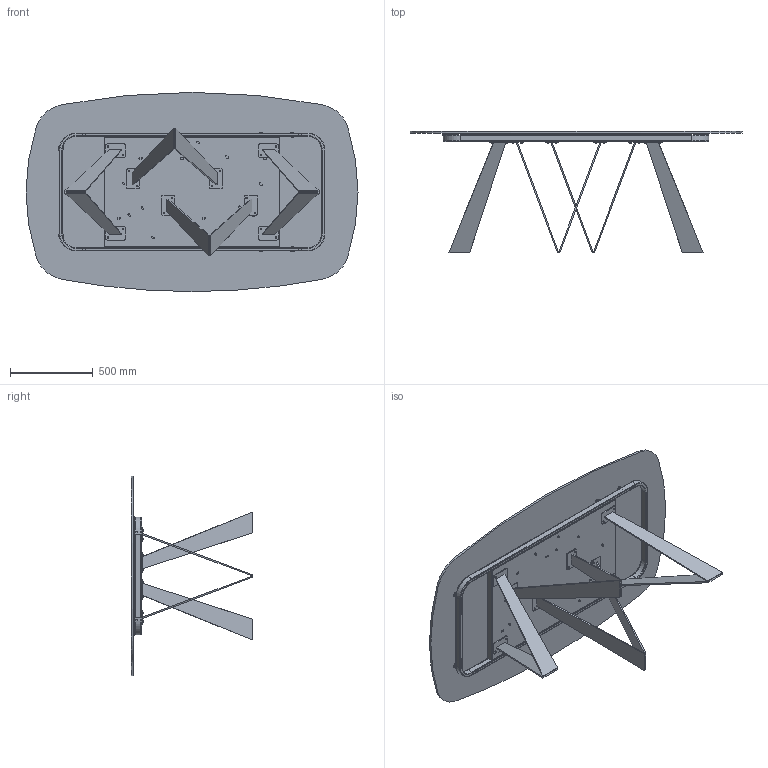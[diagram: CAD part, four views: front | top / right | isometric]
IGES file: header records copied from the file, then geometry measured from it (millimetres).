
Start section: SolidWorks IGES file using analytic representation for surfaces
Global section: file name: Y:\eforma\TECNICO\SOLIDWORKS\E-FORMA\1-TAVOLI\NOA TAVOLO\02 parts\NO41G_Noa_200x120x75h_Glass Shaped.IGS; native system: SolidWorks 2022; preprocessor: SolidWorks 2022; author: eforma.tech; date: 240807.161556; units: millimetre
Bounding box: 2000 x 731.8 x 1200 mm (x, y, z)
Volume: 35179927.4 mm3; surface area: 8445972.6 mm2
Topology: 70 solids, 70 shells, 1477 faces, 3375 edges, 2022 vertices
Faces by surface type: revolution 893, plane 584
